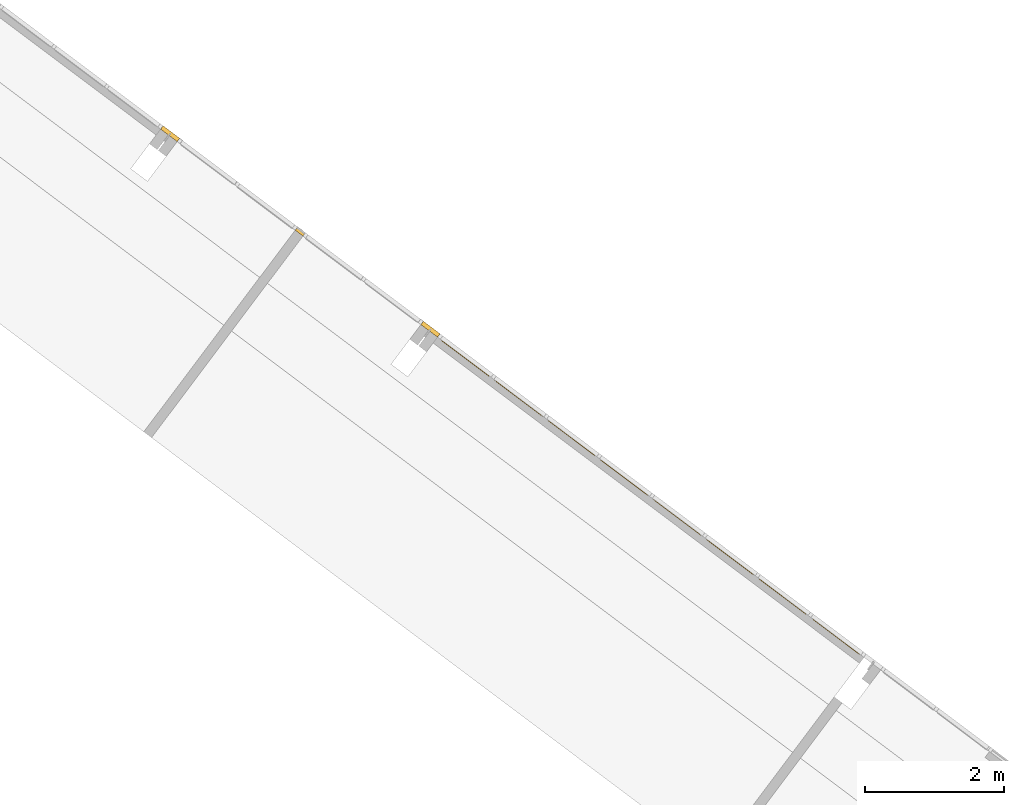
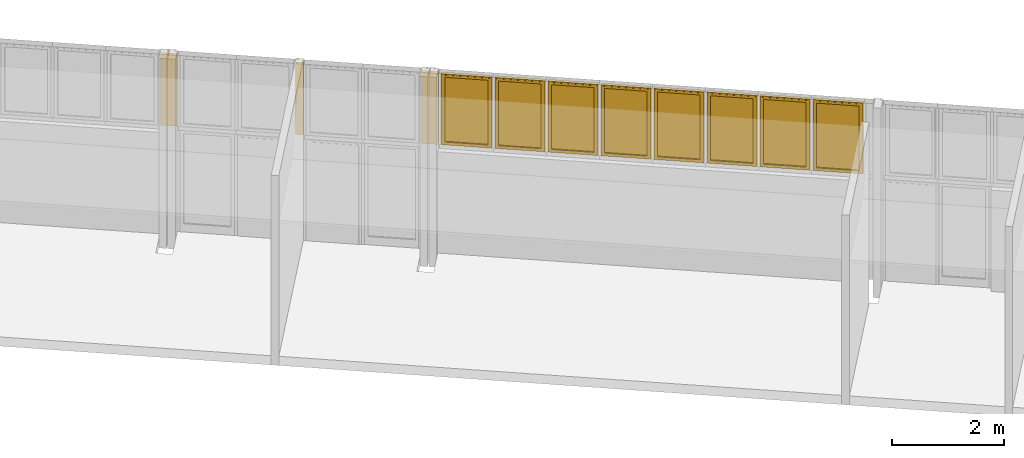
# One storey, part 10 of 18: 8 windows, 3 doors, 1 element without a shape of its own.
"""IFC2X3 building model written with IfcOpenShell, lengths in metres."""

from ifc_helpers import new_model, entity, si_unit, converted_unit, derived_unit, direction, frame, frame_2d, origin, origin_2d_with_axis, place, context, subcontext, project, spatial, rectangle, extrude, faceted_brep, source, transform, mapped, material, material_list, type_object, type_shapes, element, aggregate, save


model = new_model("IFC2X3")

# Units and contexts
model_context = context("Model", 3, precision=1e-05, world=origin(), true_north=direction((6.123031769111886e-17, 1.0)))
body_context = subcontext(model_context, "Body", "Model", "MODEL_VIEW")
ifc_project = project(units=[si_unit("LENGTHUNIT", "METRE"), si_unit("AREAUNIT", "SQUARE_METRE"), si_unit("VOLUMEUNIT", "CUBIC_METRE"), converted_unit("PLANEANGLEUNIT", "DEGREE", entity("IfcRatioMeasure", 0.017453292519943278), si_unit("PLANEANGLEUNIT", "RADIAN"), dimensions=[0, 0, 0, 0, 0, 0, 0]), si_unit("MASSUNIT", "GRAM", prefix="KILO"), derived_unit("MASSDENSITYUNIT", [(si_unit("MASSUNIT", "GRAM", prefix="KILO"), 1), (si_unit("LENGTHUNIT", "METRE"), -3)]), derived_unit("IONCONCENTRATIONUNIT", [(si_unit("MASSUNIT", "GRAM", prefix="KILO"), 1), (si_unit("LENGTHUNIT", "METRE"), -3)]), derived_unit("MOMENTOFINERTIAUNIT", [(si_unit("LENGTHUNIT", "METRE"), 4)]), si_unit("TIMEUNIT", "SECOND"), si_unit("FREQUENCYUNIT", "HERTZ"), si_unit("THERMODYNAMICTEMPERATUREUNIT", "DEGREE_CELSIUS"), derived_unit("THERMALTRANSMITTANCEUNIT", [(si_unit("MASSUNIT", "GRAM", prefix="KILO"), 1), (si_unit("THERMODYNAMICTEMPERATUREUNIT", "KELVIN"), -1), (si_unit("TIMEUNIT", "SECOND"), -3)]), derived_unit("THERMALCONDUCTANCEUNIT", [(si_unit("MASSUNIT", "GRAM", prefix="KILO"), 1), (si_unit("THERMODYNAMICTEMPERATUREUNIT", "KELVIN"), -1), (si_unit("TIMEUNIT", "SECOND"), -3), (si_unit("LENGTHUNIT", "METRE"), 1)]), derived_unit("VOLUMETRICFLOWRATEUNIT", [(si_unit("LENGTHUNIT", "METRE"), 3), (si_unit("TIMEUNIT", "SECOND"), -1)]), derived_unit("MASSFLOWRATEUNIT", [(si_unit("MASSUNIT", "GRAM", prefix="KILO"), 1), (si_unit("TIMEUNIT", "SECOND"), -1)]), derived_unit("ROTATIONALFREQUENCYUNIT", [(si_unit("TIMEUNIT", "SECOND"), -1)]), si_unit("ELECTRICCURRENTUNIT", "AMPERE"), si_unit("ELECTRICVOLTAGEUNIT", "VOLT"), si_unit("POWERUNIT", "WATT"), si_unit("FORCEUNIT", "NEWTON", prefix="KILO"), si_unit("ILLUMINANCEUNIT", "LUX"), si_unit("LUMINOUSFLUXUNIT", "LUMEN"), si_unit("LUMINOUSINTENSITYUNIT", "CANDELA"), derived_unit("USERDEFINED", [(si_unit("MASSUNIT", "GRAM", prefix="KILO"), -1), (si_unit("LENGTHUNIT", "METRE"), -2), (si_unit("TIMEUNIT", "SECOND"), 3), (si_unit("LUMINOUSFLUXUNIT", "LUMEN"), 1)]), derived_unit("USERDEFINED", [(si_unit("MASSUNIT", "GRAM", prefix="KILO"), 1), (si_unit("TIMEUNIT", "SECOND"), -3), (si_unit("LENGTHUNIT", "METRE"), 3), (si_unit("ELECTRICCURRENTUNIT", "AMPERE"), -2)]), derived_unit("SOUNDPOWERUNIT", [(si_unit("MASSUNIT", "GRAM", prefix="KILO"), 1), (si_unit("TIMEUNIT", "SECOND"), -3), (si_unit("LENGTHUNIT", "METRE"), 2)]), derived_unit("SOUNDPRESSUREUNIT", [(si_unit("MASSUNIT", "GRAM", prefix="KILO"), 1), (si_unit("LENGTHUNIT", "METRE"), -1), (si_unit("TIMEUNIT", "SECOND"), -2)]), derived_unit("LINEARVELOCITYUNIT", [(si_unit("LENGTHUNIT", "METRE"), 1), (si_unit("TIMEUNIT", "SECOND"), -1)]), si_unit("PRESSUREUNIT", "PASCAL"), derived_unit("USERDEFINED", [(si_unit("MASSUNIT", "GRAM", prefix="KILO"), 1), (si_unit("LENGTHUNIT", "METRE"), -2), (si_unit("TIMEUNIT", "SECOND"), -2)]), derived_unit("LINEARFORCEUNIT", [(si_unit("MASSUNIT", "GRAM", prefix="KILO"), 1), (si_unit("TIMEUNIT", "SECOND"), -2)]), derived_unit("PLANARFORCEUNIT", [(si_unit("MASSUNIT", "GRAM", prefix="KILO"), 1), (si_unit("LENGTHUNIT", "METRE"), -1), (si_unit("TIMEUNIT", "SECOND"), -2)]), derived_unit("SPECIFICHEATCAPACITYUNIT", [(si_unit("THERMODYNAMICTEMPERATUREUNIT", "KELVIN"), -1), (si_unit("LENGTHUNIT", "METRE"), 2), (si_unit("TIMEUNIT", "SECOND"), -2)]), derived_unit("HEATINGVALUEUNIT", [(si_unit("LENGTHUNIT", "METRE"), 2), (si_unit("TIMEUNIT", "SECOND"), -2)]), derived_unit("VAPORPERMEABILITYUNIT", [(si_unit("LENGTHUNIT", "METRE"), -1), (si_unit("TIMEUNIT", "SECOND"), 1)]), derived_unit("DYNAMICVISCOSITYUNIT", [(si_unit("MASSUNIT", "GRAM", prefix="KILO"), 1), (si_unit("TIMEUNIT", "SECOND"), -1), (si_unit("LENGTHUNIT", "METRE"), -1)]), derived_unit("THERMALEXPANSIONCOEFFICIENTUNIT", [(si_unit("THERMODYNAMICTEMPERATUREUNIT", "KELVIN"), -1)]), derived_unit("MODULUSOFELASTICITYUNIT", [(si_unit("MASSUNIT", "GRAM", prefix="KILO"), 1), (si_unit("LENGTHUNIT", "METRE"), -1), (si_unit("TIMEUNIT", "SECOND"), -2)]), derived_unit("ISOTHERMALMOISTURECAPACITYUNIT", [(si_unit("LENGTHUNIT", "METRE"), 3), (si_unit("MASSUNIT", "GRAM", prefix="KILO"), -1)]), derived_unit("MOISTUREDIFFUSIVITYUNIT", [(si_unit("TIMEUNIT", "SECOND"), -1), (si_unit("LENGTHUNIT", "METRE"), 2)])], contexts=[model_context])

# Site, building, storey
site_placement = place(None, frame((0.0, 0.0, 235.0), z_axis=(0.0, 0.0, 1.0), x_axis=(-0.7996477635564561, 0.6004693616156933, 0.0)))
site = spatial("IfcSite", under=ifc_project, at=site_placement, Name="Default", CompositionType="ELEMENT")
building_placement = place(site_placement, origin())
building = spatial("IfcBuilding", under=site, at=building_placement, CompositionType="ELEMENT")
storey_placement = place(building_placement, frame((0.0, 0.0, -4.459999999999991)))
storey = spatial("IfcBuildingStorey", under=building, at=storey_placement, Name="PS1- Vestuari", CompositionType="ELEMENT", Elevation=-4.459999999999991)

# Curtain wall, windows, doors
curtain_wall_type = type_object("IfcCurtainWallType", Name="Muro cortina:MC- EXT- AL6", PredefinedType="NOTDEFINED")
curtain_wall_placement = place(storey_placement, frame((0.0, 0.0, 4.459999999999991)))
curtain_wall = element("IfcCurtainWall", 1, at=curtain_wall_placement, inside=storey, type_object=curtain_wall_type, Name="Muro cortina:MC- EXT- AL6", ObjectType="Muro cortina:MC- EXT- AL6")
ifc_material_1 = material(Name="_Vidre")
ifc_material_2 = material(Name="_Alumini- T1- Perfil")
ifc_material_list_1 = material_list([ifc_material_1, ifc_material_2])
window_style_1 = type_object("IfcWindowStyle", Name="MC- Alu- Conjunt finestra basculant- 68x68 cm:MC- Alu- Conjunt finestra basculant- 68x68 cm", ConstructionType="NOTDEFINED", OperationType="NOTDEFINED", ParameterTakesPrecedence=False, Sizeable=False, material=ifc_material_list_1)
shared_shape_1 = source(origin(), body_context, "Body", "Brep", [
    faceted_brep([(0.399911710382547, -0.035598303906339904, 0.051999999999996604), (-0.39991171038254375, -0.03559830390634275, 0.051999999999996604), (-0.3999117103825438, -0.011598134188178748, 0.051999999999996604), (0.39991171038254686, -0.011598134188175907, 0.051999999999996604), (0.399911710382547, -0.035598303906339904, 1.4953027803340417), (0.39991171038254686, -0.011598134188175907, 1.4953027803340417), (-0.39991171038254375, -0.011598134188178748, 1.4953027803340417), (-0.39991171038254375, -0.03559830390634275, 1.4953027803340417)], [[[0, 1, 2, 3]], [[4, 0, 3, 5]], [[5, 3, 2, 6]], [[6, 2, 1, 7]], [[7, 1, 0, 4]], [[4, 5, 6, 7]]]),
    faceted_brep([(-0.38421088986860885, -0.009998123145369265, 1.4796019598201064), (-0.38421088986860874, -0.009998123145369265, 0.06789804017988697), (-0.38421088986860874, -0.007998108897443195, 0.06789804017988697), (-0.38421088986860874, -0.007998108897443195, 1.4796019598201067), (-0.41310893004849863, -0.007998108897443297, 1.5084999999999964), (0.41310893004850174, -0.00799810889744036, 1.5084999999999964), (0.41310893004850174, -0.00799810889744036, 0.03899999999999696), (-0.41310893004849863, -0.007998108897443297, 0.03899999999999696), (0.38421088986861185, -0.007998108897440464, 1.4796019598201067), (0.38421088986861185, -0.007998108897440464, 0.06789804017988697), (0.38421088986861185, -0.009998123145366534, 0.06789804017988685), (0.38421088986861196, -0.009998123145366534, 1.4796019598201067), (0.3999117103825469, -0.009998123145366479, 1.4953027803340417), (-0.3999117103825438, -0.009998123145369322, 1.4953027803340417), (-0.3999117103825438, -0.009998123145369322, 0.05219721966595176), (0.3999117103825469, -0.009998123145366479, 0.05219721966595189), (-0.39991171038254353, -0.040799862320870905, 1.4953027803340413), (-0.3999117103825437, -0.040799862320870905, 0.05219721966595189), (0.3999117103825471, -0.04079986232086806, 0.05219721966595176), (0.3999117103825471, -0.04079986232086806, 1.4953027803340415), (0.38421088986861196, -0.040799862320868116, 1.4796019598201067), (-0.3842108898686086, -0.04079986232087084, 1.4796019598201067), (-0.3842108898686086, -0.04079986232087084, 0.06789804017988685), (0.38421088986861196, -0.040799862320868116, 0.06789804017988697), (-0.3842108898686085, -0.06800005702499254, 1.4796019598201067), (-0.3842108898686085, -0.06800005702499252, 0.06789804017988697), (0.3842108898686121, -0.0680000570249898, 0.06789804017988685), (0.38421088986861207, -0.0680000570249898, 1.4796019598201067), (0.4306128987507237, -0.06800005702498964, 1.5260039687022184), (-0.43061289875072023, -0.0680000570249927, 1.5260039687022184), (-0.43061289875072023, -0.0680000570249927, 0.021496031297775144), (0.4306128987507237, -0.06800005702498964, 0.021496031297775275), (-0.43061289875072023, -0.06450003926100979, 1.5260039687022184), (-0.43061289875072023, -0.06450003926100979, 0.021496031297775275), (0.4306128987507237, -0.06450003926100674, 0.021496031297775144), (0.4306128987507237, -0.06450003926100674, 1.5260039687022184), (0.4131089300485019, -0.0645000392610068, 1.5084999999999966), (-0.4131089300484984, -0.06450003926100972, 1.5084999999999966), (-0.4131089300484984, -0.06450003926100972, 0.03899999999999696), (0.4131089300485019, -0.0645000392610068, 0.03899999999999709)], [[[0, 1, 2, 3]], [[4, 5, 6, 7], [8, 3, 2, 9]], [[1, 10, 9, 2]], [[0, 11, 10, 1], [12, 13, 14, 15]], [[16, 17, 14, 13]], [[17, 18, 15, 14]], [[16, 19, 18, 17], [20, 21, 22, 23]], [[24, 25, 22, 21]], [[25, 26, 23, 22]], [[24, 27, 26, 25], [28, 29, 30, 31]], [[32, 33, 30, 29]], [[33, 34, 31, 30]], [[32, 35, 34, 33], [36, 37, 38, 39]], [[4, 7, 38, 37]], [[7, 6, 39, 38]], [[10, 11, 8, 9]], [[18, 19, 12, 15]], [[26, 27, 20, 23]], [[34, 35, 28, 31]], [[6, 5, 36, 39]], [[11, 0, 3, 8]], [[19, 16, 13, 12]], [[27, 24, 21, 20]], [[35, 32, 29, 28]], [[5, 4, 37, 36]]], outer=[[True], [True, False], [True], [False, True], [True], [True], [True, False], [True], [True], [False, True], [True], [True], [True, False], [True], [True], [True], [True], [True], [True], [True], [True], [True], [True], [True], [True]]),
    faceted_brep([(0.3891931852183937, 0.0, 1.484693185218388), (0.38919318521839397, 0.0, 0.06280681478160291), (0.38919318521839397, -0.0040000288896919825, 0.06280681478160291), (0.38919318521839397, -0.0040000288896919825, 1.4846931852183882), (-0.38919318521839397, -0.0040000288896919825, 1.4846931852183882), (-0.38919318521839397, -0.0040000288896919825, 0.06280681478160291), (0.4245998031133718, -0.0040000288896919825, 1.5200998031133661), (-0.4245998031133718, -0.0040000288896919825, 1.5200998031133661), (-0.4245998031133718, -0.0040000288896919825, 0.027400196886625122), (0.4245998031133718, -0.0040000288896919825, 0.027400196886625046), (-0.38919318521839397, 0.0, 0.062806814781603), (-0.3891931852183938, 0.0, 1.4846931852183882), (-0.4519999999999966, 0.0, 1.547499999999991), (0.4519999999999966, 0.0, 1.547499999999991), (0.4519999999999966, 0.0, 0.0), (-0.4519999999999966, 0.0, 0.0), (0.4519999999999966, -0.05999999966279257, 1.547499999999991), (0.4519999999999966, -0.05999999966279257, 0.0), (-0.4519999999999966, -0.05999999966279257, 0.0), (-0.4519999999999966, -0.05999999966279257, 1.547499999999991), (-0.42459980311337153, -0.05999999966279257, 1.520099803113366), (0.42459980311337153, -0.05999999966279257, 1.520099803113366), (0.42459980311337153, -0.05999999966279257, 0.02740019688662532), (-0.42459980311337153, -0.05999999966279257, 0.027400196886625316)], [[[0, 1, 2, 3]], [[4, 3, 2, 5], [6, 7, 8, 9]], [[1, 10, 5, 2]], [[0, 11, 10, 1], [12, 13, 14, 15]], [[16, 17, 14, 13]], [[17, 18, 15, 14]], [[16, 19, 18, 17], [20, 21, 22, 23]], [[6, 9, 22, 21]], [[9, 8, 23, 22]], [[10, 11, 4, 5]], [[18, 19, 12, 15]], [[8, 7, 20, 23]], [[11, 0, 3, 4]], [[19, 16, 13, 12]], [[7, 6, 21, 20]]], outer=[[True], [False, True], [True], [False, True], [True], [True], [True, False], [True], [True], [True], [True], [True], [True], [True], [True]]),
])
type_shapes(window_style_1, [shared_shape_1])
window_1_placement = place(curtain_wall_placement, frame((54.553147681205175, -40.46519175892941, -2.164999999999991), z_axis=(0.0, 0.0, 1.0), x_axis=(-1.0, 0.0, 0.0)))
window_1 = element("IfcWindow", 2, at=window_1_placement, type_object=window_style_1, material=ifc_material_list_1, Name="MC- Alu- Conjunt finestra basculant- 68x68 cm:MC- Alu- Conjunt finestra basculant- 68x68 cm", ObjectType="MC- Alu- Conjunt finestra basculant- 68x68 cm:MC- Alu- Conjunt finestra basculant- 68x68 cm", OverallHeight=1.5474999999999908, OverallWidth=0.9039999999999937, context=body_context, shape_type="MappedRepresentation", body=[
    mapped(shared_shape_1, transform((0.0, 0.0, 0.0), scale=1.0)),
])
window_2_placement = place(curtain_wall_placement, frame((55.50714768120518, -40.46519175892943, -2.164999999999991), z_axis=(0.0, 0.0, 1.0), x_axis=(-1.0, 0.0, 0.0)))
window_2 = element("IfcWindow", 3, at=window_2_placement, type_object=window_style_1, material=ifc_material_list_1, Name="MC- Alu- Conjunt finestra basculant- 68x68 cm:MC- Alu- Conjunt finestra basculant- 68x68 cm", ObjectType="MC- Alu- Conjunt finestra basculant- 68x68 cm:MC- Alu- Conjunt finestra basculant- 68x68 cm", OverallHeight=1.5474999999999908, OverallWidth=0.9039999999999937, context=body_context, shape_type="MappedRepresentation", body=[
    mapped(shared_shape_1, transform((0.0, 0.0, 0.0), scale=1.0)),
])
window_3_placement = place(curtain_wall_placement, frame((56.461147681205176, -40.46519175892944, -2.164999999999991), z_axis=(0.0, 0.0, 1.0), x_axis=(-1.0, 0.0, 0.0)))
window_3 = element("IfcWindow", 4, at=window_3_placement, type_object=window_style_1, material=ifc_material_list_1, Name="MC- Alu- Conjunt finestra basculant- 68x68 cm:MC- Alu- Conjunt finestra basculant- 68x68 cm", ObjectType="MC- Alu- Conjunt finestra basculant- 68x68 cm:MC- Alu- Conjunt finestra basculant- 68x68 cm", OverallHeight=1.5474999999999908, OverallWidth=0.9039999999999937, context=body_context, shape_type="MappedRepresentation", body=[
    mapped(shared_shape_1, transform((0.0, 0.0, 0.0), scale=1.0)),
])
window_4_placement = place(curtain_wall_placement, frame((57.415147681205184, -40.465191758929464, -2.164999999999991), z_axis=(0.0, 0.0, 1.0), x_axis=(-1.0, 0.0, 0.0)))
window_4 = element("IfcWindow", 5, at=window_4_placement, type_object=window_style_1, material=ifc_material_list_1, Name="MC- Alu- Conjunt finestra basculant- 68x68 cm:MC- Alu- Conjunt finestra basculant- 68x68 cm", ObjectType="MC- Alu- Conjunt finestra basculant- 68x68 cm:MC- Alu- Conjunt finestra basculant- 68x68 cm", OverallHeight=1.5474999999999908, OverallWidth=0.9039999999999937, context=body_context, shape_type="MappedRepresentation", body=[
    mapped(shared_shape_1, transform((0.0, 0.0, 0.0), scale=1.0)),
])
window_5_placement = place(curtain_wall_placement, frame((58.36914768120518, -40.46519175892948, -2.164999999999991), z_axis=(0.0, 0.0, 1.0), x_axis=(-1.0, 0.0, 0.0)))
window_5 = element("IfcWindow", 6, at=window_5_placement, type_object=window_style_1, material=ifc_material_list_1, Name="MC- Alu- Conjunt finestra basculant- 68x68 cm:MC- Alu- Conjunt finestra basculant- 68x68 cm", ObjectType="MC- Alu- Conjunt finestra basculant- 68x68 cm:MC- Alu- Conjunt finestra basculant- 68x68 cm", OverallHeight=1.5474999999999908, OverallWidth=0.9039999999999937, context=body_context, shape_type="MappedRepresentation", body=[
    mapped(shared_shape_1, transform((0.0, 0.0, 0.0), scale=1.0)),
])
window_6_placement = place(curtain_wall_placement, frame((59.32314768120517, -40.4651917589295, -2.164999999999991), z_axis=(0.0, 0.0, 1.0), x_axis=(-1.0, 0.0, 0.0)))
window_6 = element("IfcWindow", 7, at=window_6_placement, type_object=window_style_1, material=ifc_material_list_1, Name="MC- Alu- Conjunt finestra basculant- 68x68 cm:MC- Alu- Conjunt finestra basculant- 68x68 cm", ObjectType="MC- Alu- Conjunt finestra basculant- 68x68 cm:MC- Alu- Conjunt finestra basculant- 68x68 cm", OverallHeight=1.5474999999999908, OverallWidth=0.9039999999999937, context=body_context, shape_type="MappedRepresentation", body=[
    mapped(shared_shape_1, transform((0.0, 0.0, 0.0), scale=1.0)),
])
window_7_placement = place(curtain_wall_placement, frame((60.27714768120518, -40.465191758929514, -2.164999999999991), z_axis=(0.0, 0.0, 1.0), x_axis=(-1.0, 0.0, 0.0)))
window_7 = element("IfcWindow", 8, at=window_7_placement, type_object=window_style_1, material=ifc_material_list_1, Name="MC- Alu- Conjunt finestra basculant- 68x68 cm:MC- Alu- Conjunt finestra basculant- 68x68 cm", ObjectType="MC- Alu- Conjunt finestra basculant- 68x68 cm:MC- Alu- Conjunt finestra basculant- 68x68 cm", OverallHeight=1.5474999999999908, OverallWidth=0.9039999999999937, context=body_context, shape_type="MappedRepresentation", body=[
    mapped(shared_shape_1, transform((0.0, 0.0, 0.0), scale=1.0)),
])
window_style_2 = type_object("IfcWindowStyle", Name="MC- Alu- Conjunt finestra basculant- 68x68 cm:MC- Alu- Conjunt finestra basculant- 68x68 cm", ConstructionType="NOTDEFINED", OperationType="NOTDEFINED", ParameterTakesPrecedence=False, Sizeable=False, material=ifc_material_list_1)
shared_shape_2 = source(origin(), body_context, "Body", "Brep", [
    faceted_brep([(0.40591171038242, -0.03559830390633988, 0.051999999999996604), (-0.4059117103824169, -0.03559830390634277, 0.051999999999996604), (-0.40591171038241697, -0.01159813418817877, 0.051999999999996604), (0.4059117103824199, -0.011598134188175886, 0.051999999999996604), (0.40591171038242, -0.03559830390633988, 1.4953027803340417), (0.4059117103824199, -0.011598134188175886, 1.4953027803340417), (-0.405911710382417, -0.01159813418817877, 1.4953027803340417), (-0.4059117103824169, -0.03559830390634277, 1.4953027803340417)], [[[0, 1, 2, 3]], [[4, 0, 3, 5]], [[5, 3, 2, 6]], [[6, 2, 1, 7]], [[7, 1, 0, 4]], [[4, 5, 6, 7]]]),
    faceted_brep([(-0.390210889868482, -0.009998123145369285, 1.4796019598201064), (-0.3902108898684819, -0.009998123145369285, 0.06789804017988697), (-0.3902108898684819, -0.007998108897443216, 0.06789804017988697), (-0.3902108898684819, -0.007998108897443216, 1.4796019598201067), (-0.4191089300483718, -0.007998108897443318, 1.5084999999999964), (0.41910893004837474, -0.00799810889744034, 1.5084999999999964), (0.41910893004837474, -0.00799810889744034, 0.03899999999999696), (-0.4191089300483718, -0.007998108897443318, 0.03899999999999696), (0.39021088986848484, -0.007998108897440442, 1.4796019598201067), (0.39021088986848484, -0.007998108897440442, 0.06789804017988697), (0.39021088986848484, -0.009998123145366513, 0.06789804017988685), (0.3902108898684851, -0.009998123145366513, 1.4796019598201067), (0.40591171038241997, -0.009998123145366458, 1.4953027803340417), (-0.40591171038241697, -0.009998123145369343, 1.4953027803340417), (-0.40591171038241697, -0.009998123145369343, 0.05219721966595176), (0.40591171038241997, -0.009998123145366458, 0.05219721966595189), (-0.4059117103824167, -0.04079986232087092, 1.4953027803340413), (-0.40591171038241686, -0.040799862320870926, 0.05219721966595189), (0.4059117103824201, -0.04079986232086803, 0.05219721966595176), (0.4059117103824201, -0.04079986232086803, 1.4953027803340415), (0.390210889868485, -0.040799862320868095, 1.4796019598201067), (-0.39021088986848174, -0.04079986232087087, 1.4796019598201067), (-0.39021088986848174, -0.04079986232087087, 0.06789804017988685), (0.390210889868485, -0.040799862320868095, 0.06789804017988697), (-0.3902108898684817, -0.06800005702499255, 1.4796019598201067), (-0.3902108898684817, -0.06800005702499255, 0.06789804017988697), (0.3902108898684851, -0.06800005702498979, 0.06789804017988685), (0.39021088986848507, -0.06800005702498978, 1.4796019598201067), (0.4366128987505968, -0.06800005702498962, 1.5260039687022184), (-0.4366128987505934, -0.06800005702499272, 1.5260039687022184), (-0.4366128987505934, -0.06800005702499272, 0.021496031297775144), (0.4366128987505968, -0.06800005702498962, 0.021496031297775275), (-0.4366128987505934, -0.06450003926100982, 1.5260039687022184), (-0.4366128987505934, -0.0645000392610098, 0.021496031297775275), (0.4366128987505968, -0.06450003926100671, 0.021496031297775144), (0.4366128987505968, -0.06450003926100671, 1.5260039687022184), (0.41910893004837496, -0.06450003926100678, 1.5084999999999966), (-0.4191089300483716, -0.06450003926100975, 1.5084999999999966), (-0.4191089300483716, -0.06450003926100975, 0.03899999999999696), (0.41910893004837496, -0.06450003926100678, 0.03899999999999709)], [[[0, 1, 2, 3]], [[4, 5, 6, 7], [8, 3, 2, 9]], [[1, 10, 9, 2]], [[0, 11, 10, 1], [12, 13, 14, 15]], [[16, 17, 14, 13]], [[17, 18, 15, 14]], [[16, 19, 18, 17], [20, 21, 22, 23]], [[24, 25, 22, 21]], [[25, 26, 23, 22]], [[24, 27, 26, 25], [28, 29, 30, 31]], [[32, 33, 30, 29]], [[33, 34, 31, 30]], [[32, 35, 34, 33], [36, 37, 38, 39]], [[4, 7, 38, 37]], [[7, 6, 39, 38]], [[10, 11, 8, 9]], [[18, 19, 12, 15]], [[26, 27, 20, 23]], [[34, 35, 28, 31]], [[6, 5, 36, 39]], [[11, 0, 3, 8]], [[19, 16, 13, 12]], [[27, 24, 21, 20]], [[35, 32, 29, 28]], [[5, 4, 37, 36]]], outer=[[True], [True, False], [True], [False, True], [True], [True], [True, False], [True], [True], [False, True], [True], [True], [True, False], [True], [True], [True], [True], [True], [True], [True], [True], [True], [True], [True], [True]]),
    faceted_brep([(0.3951931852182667, 0.0, 1.484693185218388), (0.39519318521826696, 0.0, 0.06280681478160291), (0.39519318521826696, -0.0040000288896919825, 0.06280681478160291), (0.39519318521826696, -0.0040000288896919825, 1.4846931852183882), (-0.39519318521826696, -0.0040000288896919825, 1.4846931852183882), (-0.39519318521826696, -0.0040000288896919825, 0.06280681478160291), (0.43059980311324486, -0.0040000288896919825, 1.5200998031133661), (-0.43059980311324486, -0.0040000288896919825, 1.5200998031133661), (-0.43059980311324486, -0.0040000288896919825, 0.02740019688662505), (0.43059980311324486, -0.0040000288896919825, 0.027400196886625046), (-0.39519318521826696, 0.0, 0.06280681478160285), (-0.39519318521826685, 0.0, 1.4846931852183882), (-0.4579999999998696, 0.0, 1.547499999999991), (0.4579999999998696, 0.0, 1.547499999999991), (0.4579999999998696, 0.0, 0.0), (-0.4579999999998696, 0.0, 0.0), (0.4579999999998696, -0.05999999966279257, 1.547499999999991), (0.4579999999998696, -0.05999999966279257, 0.0), (-0.4579999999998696, -0.05999999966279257, 0.0), (-0.4579999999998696, -0.05999999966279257, 1.547499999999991), (-0.4305998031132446, -0.05999999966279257, 1.520099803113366), (0.4305998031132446, -0.05999999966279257, 1.520099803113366), (0.4305998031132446, -0.05999999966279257, 0.02740019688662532), (-0.4305998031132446, -0.05999999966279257, 0.027400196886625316)], [[[0, 1, 2, 3]], [[4, 3, 2, 5], [6, 7, 8, 9]], [[1, 10, 5, 2]], [[0, 11, 10, 1], [12, 13, 14, 15]], [[16, 17, 14, 13]], [[17, 18, 15, 14]], [[16, 19, 18, 17], [20, 21, 22, 23]], [[6, 9, 22, 21]], [[9, 8, 23, 22]], [[10, 11, 4, 5]], [[18, 19, 12, 15]], [[8, 7, 20, 23]], [[11, 0, 3, 4]], [[19, 16, 13, 12]], [[7, 6, 21, 20]]], outer=[[True], [False, True], [True], [False, True], [True], [True], [True, False], [True], [True], [True], [True], [True], [True], [True], [True]]),
])
type_shapes(window_style_2, [shared_shape_2])
window_8_placement = place(curtain_wall_placement, frame((61.23714768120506, -40.46519175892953, -2.164999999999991), z_axis=(0.0, 0.0, 1.0), x_axis=(-1.0, 0.0, 0.0)))
window_8 = element("IfcWindow", 9, at=window_8_placement, type_object=window_style_2, material=ifc_material_list_1, Name="MC- Alu- Conjunt finestra basculant- 68x68 cm:MC- Alu- Conjunt finestra basculant- 68x68 cm", ObjectType="MC- Alu- Conjunt finestra basculant- 68x68 cm:MC- Alu- Conjunt finestra basculant- 68x68 cm", OverallHeight=1.5474999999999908, OverallWidth=0.9159999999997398, context=body_context, shape_type="MappedRepresentation", body=[
    mapped(shared_shape_2, transform((0.0, 0.0, 0.0), scale=1.0)),
])
ifc_material_3 = material(Name="_Aillament")
ifc_material_list_2 = material_list([ifc_material_2, ifc_material_3])
door_style_1 = type_object("IfcDoorStyle", Name="MC- Alu- panell especific xapa:MC- Alu- panell especific xapa", ConstructionType="NOTDEFINED", OperationType="NOTDEFINED", ParameterTakesPrecedence=False, Sizeable=False, material=ifc_material_list_2)
shared_shape_3 = source(origin(), body_context, "Body", "SweptSolid", [
    extrude(rectangle(XDim=0.005999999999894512, YDim=0.30000000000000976, at=frame_2d((0.0, 1.3877787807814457e-17), x_axis=(1.0, 0.0))), frame((0.0, -0.057000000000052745, 0.0), z_axis=(0.0, 0.0, 1.0), x_axis=(0.0, -1.0, 0.0)), (0.0, 0.0, 1.0), 1.5474999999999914),
    extrude(rectangle(XDim=0.3000000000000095, YDim=0.048000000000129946, at=origin_2d_with_axis()), frame((0.0, -0.030000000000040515, 0.0)), (0.0, 0.0, 1.0), 1.5474999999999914),
    extrude(rectangle(XDim=0.005999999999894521, YDim=0.30000000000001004, at=frame_2d((0.0, 1.3877787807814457e-17), x_axis=(1.0, 0.0))), frame((0.0, -0.003000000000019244, 0.0), z_axis=(0.0, 0.0, 1.0), x_axis=(0.0, -1.0, 0.0)), (0.0, 0.0, 1.0), 1.5474999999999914),
])
type_shapes(door_style_1, [shared_shape_3])
door_1_placement = place(curtain_wall_placement, frame((61.895147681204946, -40.46519175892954, -2.164999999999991), z_axis=(0.0, 0.0, 1.0), x_axis=(-1.0, 0.0, 0.0)))
door_1 = element("IfcDoor", 10, at=door_1_placement, type_object=door_style_1, material=ifc_material_list_2, Name="MC- Alu- panell especific xapa:MC- Alu- panell especific xapa", ObjectType="MC- Alu- panell especific xapa:MC- Alu- panell especific xapa", OverallHeight=1.5474999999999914, OverallWidth=0.30000000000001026, context=body_context, shape_type="MappedRepresentation", body=[
    mapped(shared_shape_3, transform((0.0, 0.0, 0.0), scale=1.0)),
])
door_2_placement = place(curtain_wall_placement, frame((66.59514768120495, -40.46519175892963, -2.164999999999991), z_axis=(0.0, 0.0, 1.0), x_axis=(-1.0, 0.0, 0.0)))
door_2 = element("IfcDoor", 11, at=door_2_placement, type_object=door_style_1, material=ifc_material_list_2, Name="MC- Alu- panell especific xapa:MC- Alu- panell especific xapa", ObjectType="MC- Alu- panell especific xapa:MC- Alu- panell especific xapa", OverallHeight=1.5474999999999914, OverallWidth=0.30000000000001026, context=body_context, shape_type="MappedRepresentation", body=[
    mapped(shared_shape_3, transform((0.0, 0.0, 0.0), scale=1.0)),
])
door_style_2 = type_object("IfcDoorStyle", Name="MC- Alu- panell especific xapa:MC- Alu- panell especific xapa", ConstructionType="NOTDEFINED", OperationType="NOTDEFINED", ParameterTakesPrecedence=False, Sizeable=False, material=ifc_material_list_2)
shared_shape_4 = source(origin(), body_context, "Body", "SweptSolid", [
    extrude(rectangle(XDim=0.005999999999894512, YDim=0.14000000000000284, at=frame_2d((0.0, -6.938893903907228e-18), x_axis=(1.0, 0.0))), frame((0.0, -0.057000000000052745, 0.0), z_axis=(0.0, 0.0, 1.0), x_axis=(0.0, -1.0, 0.0)), (0.0, 0.0, 1.0), 1.5474999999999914),
    extrude(rectangle(XDim=0.14000000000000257, YDim=0.048000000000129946, at=origin_2d_with_axis()), frame((0.0, -0.030000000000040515, 0.0)), (0.0, 0.0, 1.0), 1.5474999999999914),
    extrude(rectangle(XDim=0.005999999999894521, YDim=0.1400000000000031, at=frame_2d((0.0, -6.938893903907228e-18), x_axis=(1.0, 0.0))), frame((0.0, -0.003000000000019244, 0.0), z_axis=(0.0, 0.0, 1.0), x_axis=(0.0, -1.0, 0.0)), (0.0, 0.0, 1.0), 1.5474999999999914),
])
type_shapes(door_style_2, [shared_shape_4])
door_3_placement = place(curtain_wall_placement, frame((64.24514768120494, -40.465191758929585, -2.164999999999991), z_axis=(0.0, 0.0, 1.0), x_axis=(-1.0, 0.0, 0.0)))
door_3 = element("IfcDoor", 12, at=door_3_placement, type_object=door_style_2, material=ifc_material_list_2, Name="MC- Alu- panell especific xapa:MC- Alu- panell especific xapa", ObjectType="MC- Alu- panell especific xapa:MC- Alu- panell especific xapa", OverallHeight=1.5474999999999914, OverallWidth=0.1400000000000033, context=body_context, shape_type="MappedRepresentation", body=[
    mapped(shared_shape_4, transform((0.0, 0.0, 0.0), scale=1.0)),
])
aggregate(curtain_wall, [window_1, window_2, window_3, window_4, window_5, window_6, window_7, window_8, door_1, door_3, door_2])

save(model, "model.ifc")
